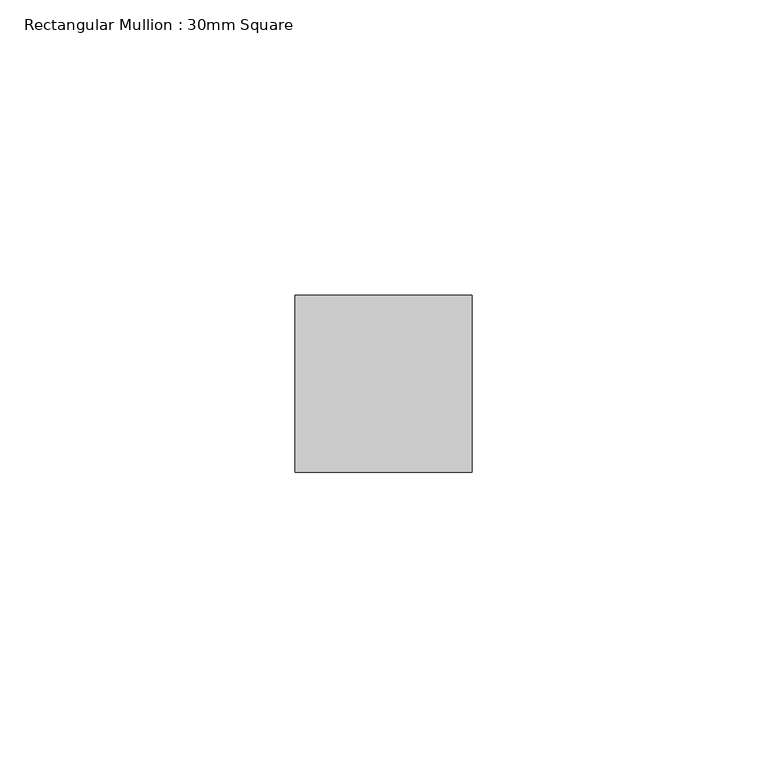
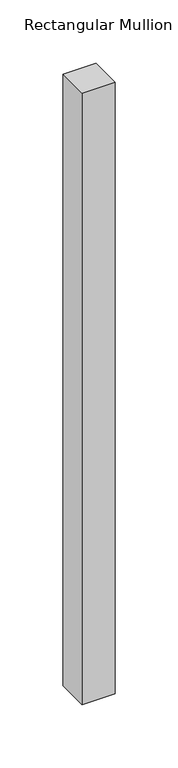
"""IFC4 building model written with IfcOpenShell, lengths in millimetres: member geometry, Rectangular Mullion : 30mm Square."""

from ifc_helpers import new_model, si_unit, frame, origin, place, context, project, spatial, polyline, outline, extrude, source, transform, mapped, element, save


def rectangular_mullion_30mm_square_2780d2b8(model_context):
    return source(origin(), model_context, "Body", "SweptSolid", [
        extrude(outline(polyline([(15.0, 15.0), (15.0, -15.0), (-15.0, -15.0), (-15.0, 15.0), (15.0, 15.0)])), frame((0.0, 0.0, -590.0), z_axis=(0.0, 0.0, 1.0), x_axis=(1.0, 0.0, 0.0)), (0.0, 0.0, 1.0), 590.0),
    ])


if __name__ == "__main__":
    model = new_model("IFC4")
    model_context = context("Model", 3, world=origin())
    ifc_project = project(units=[si_unit("LENGTHUNIT", "METRE", prefix="MILLI")], contexts=[model_context])
    site = spatial("IfcSite", under=ifc_project)
    building = spatial("IfcBuilding", under=site)
    placement = place(None, origin())
    rectangular_mullion_30mm_square_shape = rectangular_mullion_30mm_square_2780d2b8(model_context)
    element("IfcMember", 1, ObjectType="Rectangular Mullion : 30mm Square", at=placement, inside=building, context=model_context, shape_type="MappedRepresentation", body=[
        mapped(rectangular_mullion_30mm_square_shape, transform((0.0, 0.0, 0.0), x_axis=(1.0, 0.0, 0.0), y_axis=(0.0, 1.0, 0.0), z_axis=(0.0, 0.0, 1.0))),
    ])
    save(model, "model.ifc")
